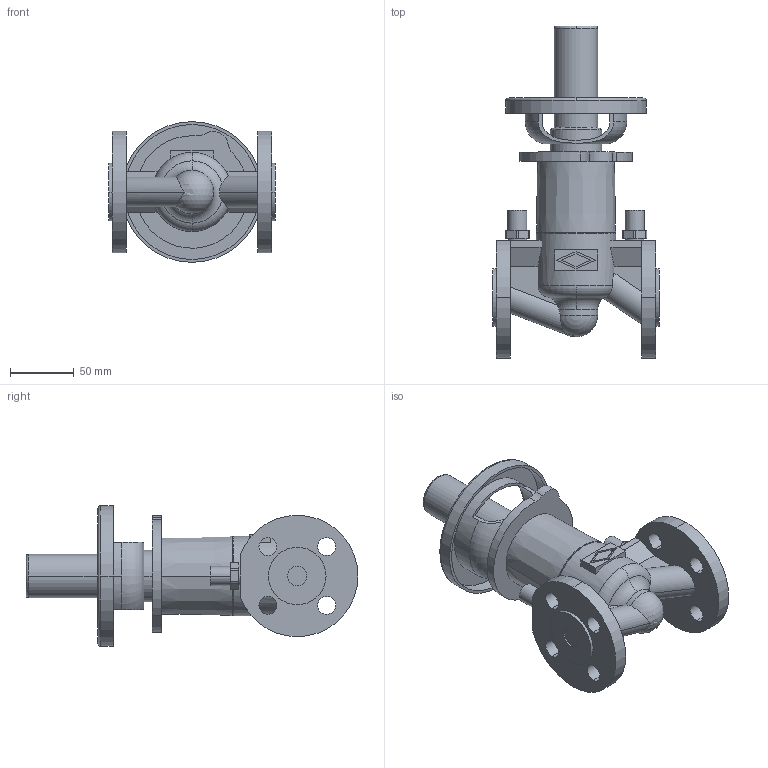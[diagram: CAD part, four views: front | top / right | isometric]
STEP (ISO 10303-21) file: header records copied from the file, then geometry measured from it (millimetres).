
FILE_DESCRIPTION( ( '' ), '1' );
FILE_NAME( 'F:/DE-SHS/TB/OR/04-Sonstiges/daten/files_3d/12020/c000000209.stp', '2015-04-28T06:36:05', ( '' ), ( '' ), ' ', ' ', ' ' );
FILE_SCHEMA( ( 'CONFIG_CONTROL_DESIGN' ) );
Length unit declared in the file: millimetre
Products named in the file (1): 1
Bounding box: 130 x 259.7 x 110 mm (x, y, z)
Volume: 734786.7 mm3; surface area: 122222 mm2
Topology: 1 solids, 1 shells, 170 faces, 454 edges, 302 vertices
Faces by surface type: cylinder 79, plane 69, torus 17, cone 4, sphere 1
Entity records: 6274 total; most frequent: CARTESIAN_POINT 1769, DIRECTION 992, ORIENTED_EDGE 904, EDGE_CURVE 452, AXIS2_PLACEMENT_3D 393, VERTEX_POINT 302, CIRCLE 214, EDGE_LOOP 208
